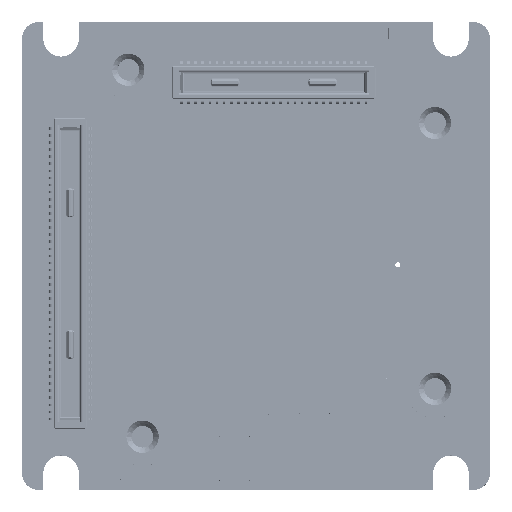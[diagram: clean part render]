
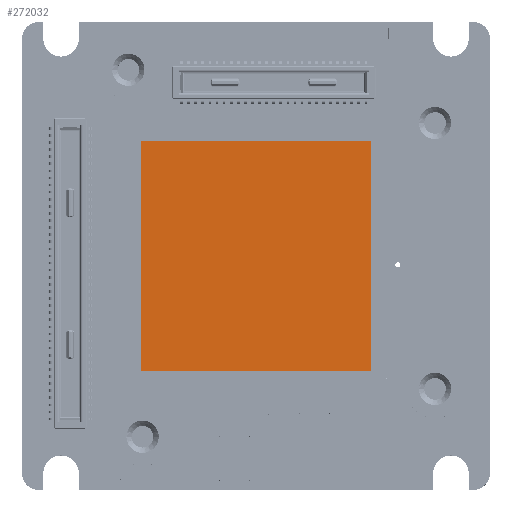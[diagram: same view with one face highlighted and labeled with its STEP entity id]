
A CAD part, top view. The second image highlights one B-rep face of the part: STEP entity #272032.
In plain terms, the highlighted planar face has unit normal (0, 0, 1).
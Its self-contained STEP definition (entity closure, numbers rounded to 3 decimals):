
#39331 = DIRECTION ( 'NONE',  ( 1., 0., 0. ) ) ;
#43678 = VECTOR ( 'NONE', #539981, 1000. ) ;
#75045 = DIRECTION ( 'NONE',  ( 0., -1., 0. ) ) ;
#88103 = PLANE ( 'NONE',  #550681 ) ;
#106616 = CARTESIAN_POINT ( 'NONE',  ( -6.5, -6.5, 6.162 ) ) ;
#149591 = ORIENTED_EDGE ( 'NONE', *, *, #598218, .F. ) ;
#165198 = EDGE_LOOP ( 'NONE', ( #149591, #385101, #554523, #434479 ) ) ;
#192478 = CARTESIAN_POINT ( 'NONE',  ( -6.5, 6.5, 6.162 ) ) ;
#212673 = LINE ( 'NONE', #434434, #43678 ) ;
#212878 = CARTESIAN_POINT ( 'NONE',  ( 6.5, -6.5, 6.162 ) ) ;
#244494 = CARTESIAN_POINT ( 'NONE',  ( 0., 0., 6.162 ) ) ;
#245746 = LINE ( 'NONE', #572970, #467276 ) ;
#254696 = VECTOR ( 'NONE', #710872, 1000. ) ;
#272032 = ADVANCED_FACE ( 'NONE', ( #695192 ), #88103, .F. ) ;
#301414 = LINE ( 'NONE', #192478, #588328 ) ;
#314087 = VERTEX_POINT ( 'NONE', #348348 ) ;
#321156 = EDGE_CURVE ( 'NONE', #456868, #314087, #390715, .T. ) ;
#348348 = CARTESIAN_POINT ( 'NONE',  ( -6.5, 6.5, 6.162 ) ) ;
#385101 = ORIENTED_EDGE ( 'NONE', *, *, #661459, .F. ) ;
#390715 = LINE ( 'NONE', #540197, #254696 ) ;
#434434 = CARTESIAN_POINT ( 'NONE',  ( 6.5, -6.5, 6.162 ) ) ;
#434479 = ORIENTED_EDGE ( 'NONE', *, *, #321156, .F. ) ;
#435681 = VERTEX_POINT ( 'NONE', #212878 ) ;
#456868 = VERTEX_POINT ( 'NONE', #106616 ) ;
#467276 = VECTOR ( 'NONE', #75045, 1000. ) ;
#477038 = DIRECTION ( 'NONE',  ( 0., 0., -1. ) ) ;
#483181 = CARTESIAN_POINT ( 'NONE',  ( 6.5, 6.5, 6.162 ) ) ;
#539981 = DIRECTION ( 'NONE',  ( -1., 0., 0. ) ) ;
#540197 = CARTESIAN_POINT ( 'NONE',  ( -6.5, -6.5, 6.162 ) ) ;
#546807 = EDGE_CURVE ( 'NONE', #314087, #655654, #301414, .T. ) ;
#550681 = AXIS2_PLACEMENT_3D ( 'NONE', #244494, #477038, #698783 ) ;
#554523 = ORIENTED_EDGE ( 'NONE', *, *, #546807, .F. ) ;
#572970 = CARTESIAN_POINT ( 'NONE',  ( 6.5, 6.5, 6.162 ) ) ;
#588328 = VECTOR ( 'NONE', #39331, 1000. ) ;
#598218 = EDGE_CURVE ( 'NONE', #435681, #456868, #212673, .T. ) ;
#655654 = VERTEX_POINT ( 'NONE', #483181 ) ;
#661459 = EDGE_CURVE ( 'NONE', #655654, #435681, #245746, .T. ) ;
#695192 = FACE_OUTER_BOUND ( 'NONE', #165198, .T. ) ;
#698783 = DIRECTION ( 'NONE',  ( 0., -1., 0. ) ) ;
#710872 = DIRECTION ( 'NONE',  ( 0., 1., 0. ) ) ;
